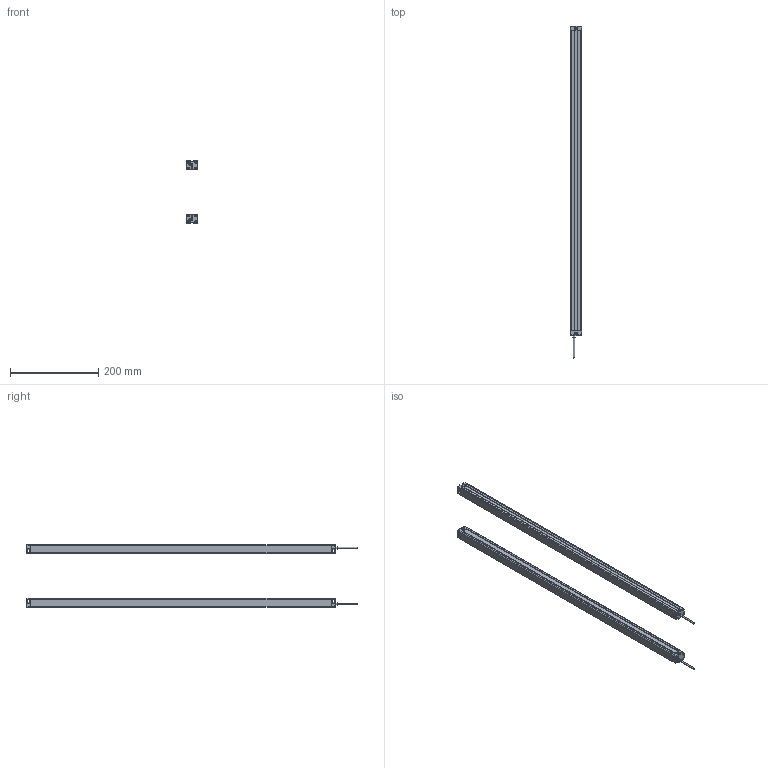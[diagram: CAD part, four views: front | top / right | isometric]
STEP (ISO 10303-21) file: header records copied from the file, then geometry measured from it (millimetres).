
FILE_DESCRIPTION (( 'STEP AP214' ), '1' );
FILE_NAME ('MTC3420.STEP', '2022-08-02T09:01:23', ( '' ), ( '' ), 'SwSTEP 2.0', 'SolidWorks 2018', '' );
FILE_SCHEMA (( 'AUTOMOTIVE_DESIGN' ));
Length unit declared in the file: millimetre
Products named in the file (5): MTC3420; MTC waike^MTC; 噩砃P02^MTC; P02^MTC; P01^MTC
Assembly tree (6 placements, depth 2):
  MTC3420
    MTC waike^MTC  x2
    P01^MTC  x2
    P02^MTC
    噩砃P02^MTC
Bounding box: 25 x 752 x 141.4 mm (x, y, z)
Volume: 234452.1 mm3; surface area: 321526.6 mm2
Topology: 8 solids, 8 shells, 480 faces, 1396 edges, 924 vertices
Faces by surface type: plane 272, cylinder 208
Entity records: 10886 total; most frequent: DIRECTION 1881, CARTESIAN_POINT 1878, ORIENTED_EDGE 1846, EDGE_CURVE 923, AXIS2_PLACEMENT_3D 637, VERTEX_POINT 610, LINE 607, VECTOR 607
